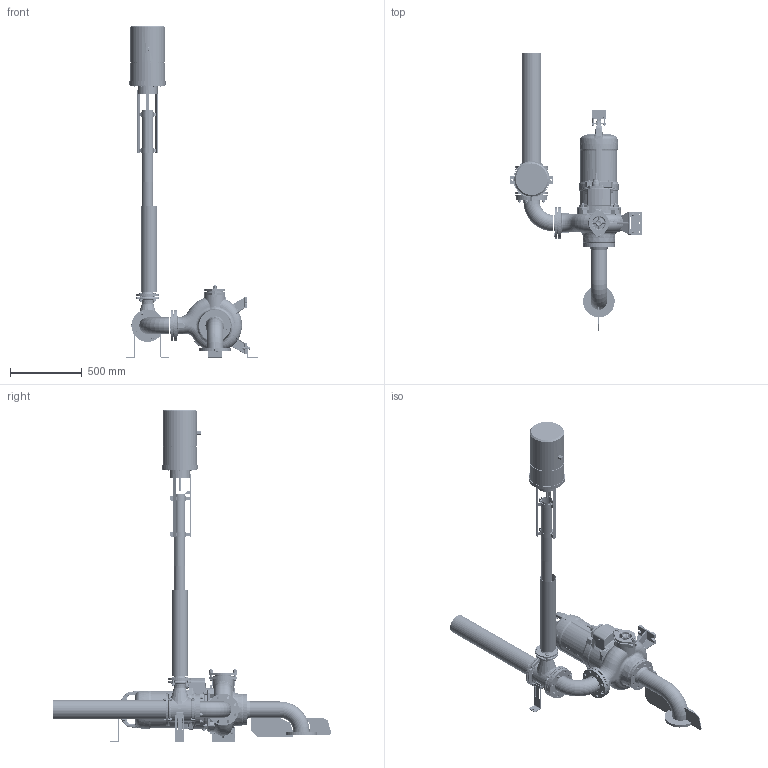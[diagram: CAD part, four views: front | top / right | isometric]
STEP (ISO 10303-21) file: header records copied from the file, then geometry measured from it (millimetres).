
FILE_DESCRIPTION(/* description */ (''),/* implementation_level */ '2;1');
FILE_NAME(/* name */ 'H:\3D\Projekte\@Wirbeljet\700 Amajet_2021_step\SewerAmajet_M_Bottom_suction_KA_16.stp',/* time_stamp */ '2021-04-12T22:43:34+02:00',/* author */ ('emmrpat'),/* organization */ (''),/* preprocessor_version */ 'ST-DEVELOPER v18',/* originating_system */ 'Autodesk Inventor 2020',/* authorisation */ '');
FILE_SCHEMA (('AUTOMOTIVE_DESIGN { 1 0 10303 214 3 1 1 }'));
Length unit declared in the file: millimetre
Products named in the file (68): SewerAmajet_M_Bottom_suction_KA_16; Ansaugstück_DN100_Bodenabsaugung; Dichtung1_DN100_5mm; Flansch_0W308059; 0W308365_Vari_01_Duese; Strahlrohr_133mm_800mm; 0W308365_Vari_01_Duese_1; Dichtung_DN100_5mm; Dichtung_DN65_4mm_110; 0W308366_800mm_Belueftung; 0W308366_800mm_Rohr; Vorschweißflansch_DN65_PN6; Kabelschutzrohr_01; 0W382247_Mischkammer; Verstelllasche; ISO 7089 -  8; ISO 4762  - M8 x 16; FFQ-Stueck_DN100_Losflansche_183mm_Edelstahl; Aufstellung_03; KRT_100-250_komplett; Sewatec_100-250_0W383895_01; Putzlochdeckel_Z065469; ISO 4032 - M16; DIN 188 - M16 x 70; UG155595214_01; ug1004874zmn001_01; ug1004383zmn001_01; ug1510147zmk001_01_BODY; ug1510095zmk001_01; ug1510137zmk001_01; ug1510136zmk001_01; ug1510110zmk001_01; UG154735011ZMM001_02; UG153885001ZMM001_01; ug1012584zmn001_01; ug1002091zmn001_01; UG154911611ZMM001_04; ISO 4032 - M16_1; DIN 835 - M16 x 50; Stützwinkel_neu_01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
Assembly tree (180 placements, depth 5):
  SewerAmajet_M_Bottom_suction_KA_16
    Dichtung1_DN100_5mm  x3
    Ansaugstück_DN100_Bodenabsaugung
    Flansch_0W308059
    Dichtung_DN100_5mm  x2
    0W308365_Vari_01_Duese
    Strahlrohr_133mm_800mm
    0W308365_Vari_01_Duese_1
    Dichtung_DN65_4mm_110
    0W308366_800mm_Belueftung
      0W308366_800mm_Rohr
      Vorschweißflansch_DN65_PN6
    Kabelschutzrohr_01
    0W382247_Mischkammer
    Verstelllasche  x2
    ISO 7089 -  8  x4
    ISO 4762  - M8 x 16  x4
    FFQ-Stueck_DN100_Losflansche_183mm_Edelstahl
    Aufstellung_03
      KRT_100-250_komplett
        Sewatec_100-250_0W383895_01
        Putzlochdeckel_Z065469
        ISO 4032 - M16  x2
        ISO 7089 -  16  x2
        DIN 188 - M16 x 70  x2
      UG155595214_01
        ug1004874zmn001_01  x4
        ug1004383zmn001_01  x2
        ug1510147zmk001_01_BODY
          ug1510095zmk001_01
          ug1510137zmk001_01  x12
          ug1510136zmk001_01
          ug1510110zmk001_01
        UG154735011ZMM001_02
        UG153885001ZMM001_01
        ug1012584zmn001_01
        ug1002091zmn001_01
        UG154911611ZMM001_04
        ISO 4032 - M16_1  x4
        ISO 7089 -  16  x4
        DIN 835 - M16 x 50  x4
    Stützwinkel_neu_01
      Stützwinkel_neu
      Klemmblech_neu
      ISO 4032 - M10  x2
      ISO 7089 - 10 - 140 HV  x2
      ISO 4017 - M10 x 55  x2
    Stützwinkel_Pumpe_S-Aufstellung
    ISO 7089 -  12  x28
    ISO 4032 - M12  x14
    ISO 4017 - M12 x 45  x2
    ISO 7089 -  16
    DIN 835 - M12 x 40  x4
    ISO 4017 - M12 x 30  x4
    ISO 4017 - M12 x 50  x4
    ISO 4017 - M12 x 55  x4
    Hubmagnet
      01
      06
      08
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Bounding box: 914 x 1937.65 x 2309.5 mm (x, y, z)
Volume: 46876331 mm3; surface area: 7103250.6 mm2
Topology: 178 solids, 178 shells, 4259 faces, 10112 edges, 6278 vertices
Faces by surface type: plane 1572, cylinder 1067, bspline 715, cone 397, torus 375, sphere 133
Full cylindrical faces by diameter (mm): 3 x12, 3.05 x2, 3.3 x1, 4 x12, 5 x12, 6 x12, 6.647 x6, 6.8 x1, 7 x24, 8 x15, 8.376 x4, 8.4 x4, 8.5 x6, 9.5 x6, 10 x10, 10.106 x14, 10.5 x2, 11 x12, 11.5 x8, 12 x26, 13 x40, 13.835 x6, 14 x4, 14.63 x4, 15.25 x1, 16 x25, 16.63 x14, 16.662 x1, 17 x7, 17.1 x1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
Entity records: 139464 total; most frequent: CARTESIAN_POINT 61394, ORIENTED_EDGE 15552, DIRECTION 15480, EDGE_CURVE 7776, AXIS2_PLACEMENT_3D 6444, VERTEX_POINT 4825, EDGE_LOOP 3701, CIRCLE 3488
